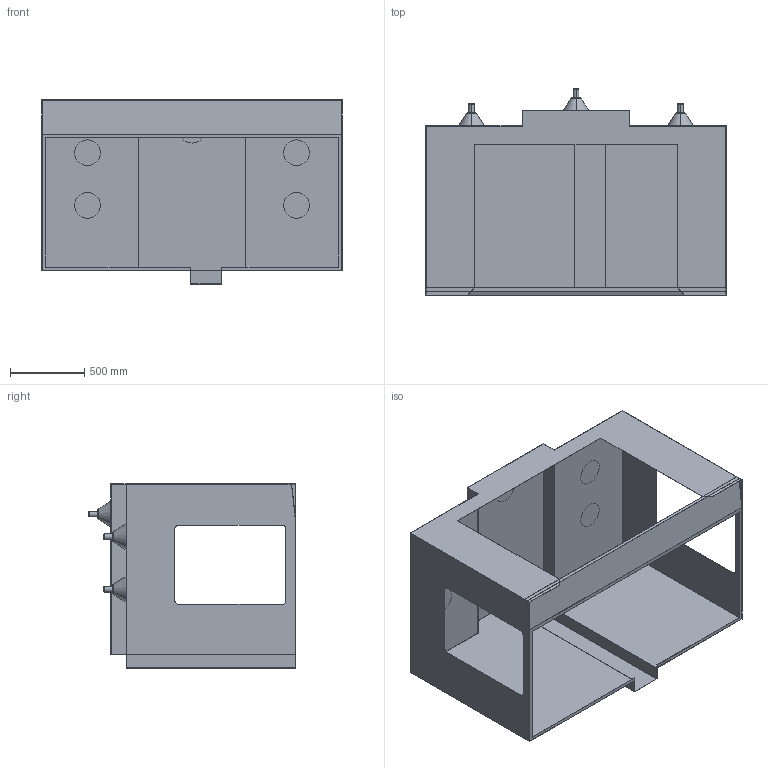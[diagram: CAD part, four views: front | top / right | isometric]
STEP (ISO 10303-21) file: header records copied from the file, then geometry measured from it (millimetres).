
FILE_DESCRIPTION (( 'STEP AP214' ), '1' );
FILE_NAME ('34427 PCNC-1100 ENCLOSURE.STEP', '2014-06-18T15:02:22', ( '' ), ( '' ), 'SwSTEP 2.0', 'SolidWorks 2012', '' );
FILE_SCHEMA (( 'AUTOMOTIVE_DESIGN' ));
Length unit declared in the file: millimetre
Products named in the file (1): 34427 PCNC-1100 ENCLOSURE
Bounding box: 2027.75 x 1396.5 x 1243.88 mm (x, y, z)
Volume: 18684913.6 mm3; surface area: 17460275.7 mm2
Topology: 1 solids, 1 shells, 115 faces, 288 edges, 184 vertices
Faces by surface type: plane 67, torus 20, cylinder 18, cone 10
Entity records: 3472 total; most frequent: DIRECTION 616, CARTESIAN_POINT 588, ORIENTED_EDGE 576, EDGE_CURVE 288, AXIS2_PLACEMENT_3D 212, VECTOR 192, LINE 192, VERTEX_POINT 184
